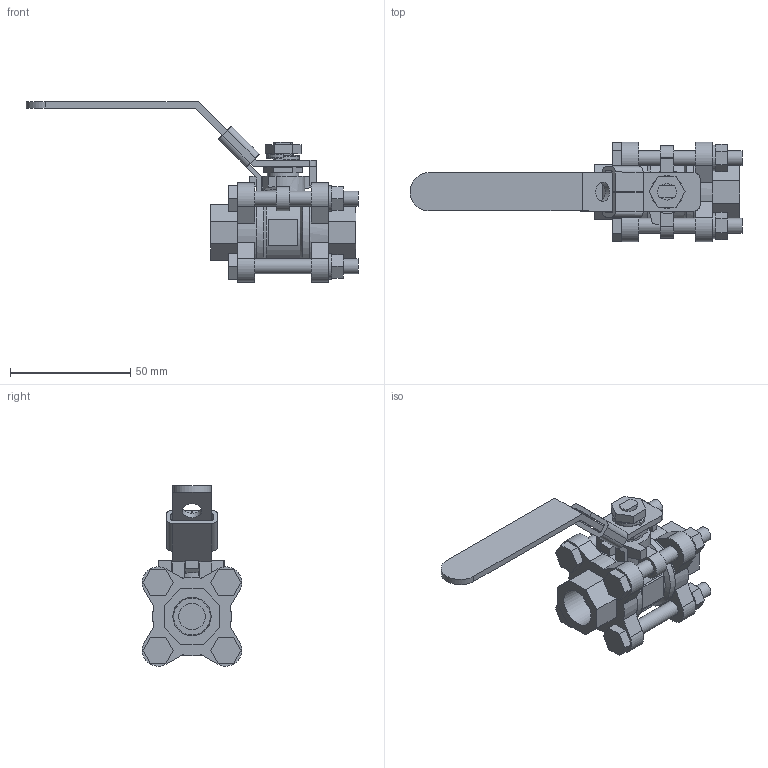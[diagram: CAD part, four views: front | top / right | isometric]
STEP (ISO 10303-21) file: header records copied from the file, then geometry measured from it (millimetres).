
FILE_DESCRIPTION((' '),'2;1');
FILE_NAME('N:\Technical Support\Private\Jomar Valve CAD\Ball Valves\CS and SS\1000N-4B\Threaded\.375 T-CS[SS]-1000N-4B (500-402 [500-302])FusionCopy.stp.step','2017-05-25T16:41:48',(' '),(' '),' ','ACIS',' ');
FILE_SCHEMA(('CONFIG_CONTROL_DESIGN'));
Length unit declared in the file: inch
Products named in the file (22): N:\Technical Support\Private\Jomar Valve CAD\Ball Valves\CS and SS\1000N-4B\Threaded\.375 T-CS[SS]-1000N-4B (500-402 [500-302])FusionCopy.stp.step; Body1; Body2; Body3; Body4; Body5; Body6; Body7; Body8; Body9; Body10; Body11; Body12; Body13; Body14; Body15; Body16; Body17; Body18; Body19; Body20; Body21
Assembly tree (21 placements, depth 2):
  N:\Technical Support\Private\Jomar Valve CAD\Ball Valves\CS and SS\1000N-4B\Threaded\.375 T-CS[SS]-1000N-4B (500-402 [500-302])FusionCopy.stp.step
    Body1
    Body2
    Body3
    Body4
    Body5
    Body6
    Body7
    Body8
    Body9
    Body10
    Body11
    Body12
    Body13
    Body14
    Body15
    Body16
    Body17
    Body18
    Body19
    Body20
    Body21
Bounding box: 138.23 x 41.41 x 75.15 mm (x, y, z)
Volume: 60523.5 mm3; surface area: 33549.3 mm2
Topology: 21 solids, 21 shells, 321 faces, 799 edges, 529 vertices
Faces by surface type: plane 154, bspline 107, cylinder 44, cone 12, torus 4
Full cylindrical faces by diameter (mm): 5.156 x2, 6.223 x2, 6.604 x4, 6.731 x2, 6.858 x1, 7.112 x1, 8.128 x1, 8.89 x1, 9.271 x1, 10.668 x2, 11.024 x1, 13.081 x1, 32.766 x2
Entity records: 12838 total; most frequent: CARTESIAN_POINT 2378, ORIENTED_EDGE 1492, DIRECTION 1429, EDGE_CURVE 746, VECTOR 531, LINE 531, VERTEX_POINT 516, AXIS2_PLACEMENT_3D 449
